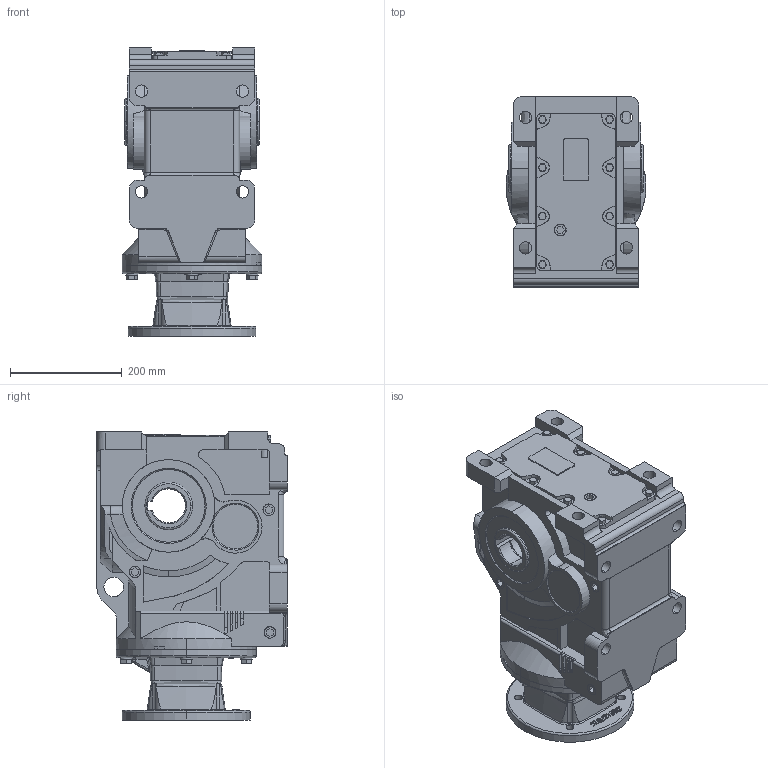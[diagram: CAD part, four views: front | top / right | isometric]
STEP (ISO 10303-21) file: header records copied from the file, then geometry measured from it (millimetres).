
FILE_DESCRIPTION (( 'STEP AP203' ), '1' );
FILE_NAME ('KHN87-213-5TC.STEP', '2022-04-08T02:39:25', ( 'user1' ), ( '' ), 'SwSTEP 2.0', 'SolidWorks 2012', '' );
FILE_SCHEMA (( 'CONFIG_CONTROL_DESIGN' ));
Products named in the file (3): KHN87; 87型-213T; KHN87-213-5TC
Assembly tree (2 placements, depth 2):
  KHN87-213-5TC
    KHN87
    87型-213T
Bounding box: 250 x 340.5 x 514.5 mm (x, y, z)
Volume: 23708659.9 mm3; surface area: 1005514.8 mm2
Topology: 2 solids, 28 shells, 1336 faces, 3409 edges, 2193 vertices
Faces by surface type: plane 617, cylinder 345, cone 191, bspline 155, torus 28
Entity records: 54545 total; most frequent: CARTESIAN_POINT 22771, ORIENTED_EDGE 6754, DIRECTION 6132, EDGE_CURVE 3377, VERTEX_POINT 2193, AXIS2_PLACEMENT_3D 2141, VECTOR 1850, LINE 1850
